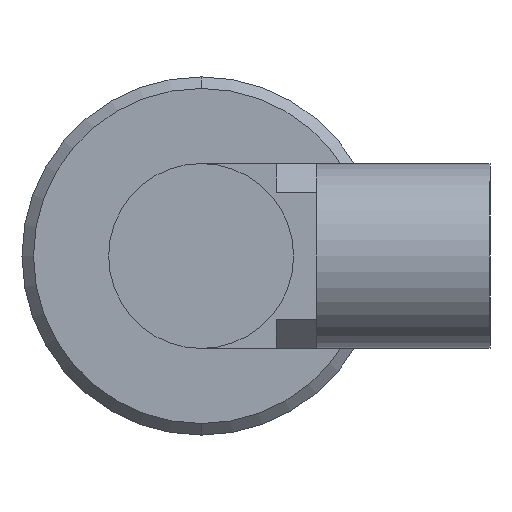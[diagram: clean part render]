
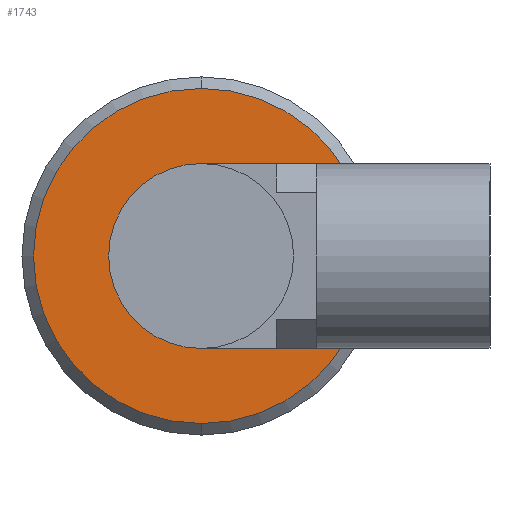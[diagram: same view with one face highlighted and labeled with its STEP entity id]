
A CAD part, left-side view. The second image highlights one B-rep face of the part: STEP entity #1743.
In plain terms, the highlighted planar face has unit normal (-1, 0, 0).
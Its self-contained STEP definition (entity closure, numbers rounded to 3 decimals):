
#11 = CIRCLE ( 'NONE', #883, 8. ) ;
#23 = DIRECTION ( 'NONE',  ( 0., 0., 1. ) ) ;
#124 = CARTESIAN_POINT ( 'NONE',  ( 89., 0., -14.5 ) ) ;
#138 = FACE_BOUND ( 'NONE', #1045, .T. ) ;
#149 = ORIENTED_EDGE ( 'NONE', *, *, #156, .T. ) ;
#156 = EDGE_CURVE ( 'NONE', #1061, #360, #347, .T. ) ;
#164 = ORIENTED_EDGE ( 'NONE', *, *, #496, .F. ) ;
#272 = AXIS2_PLACEMENT_3D ( 'NONE', #472, #1426, #607 ) ;
#281 = DIRECTION ( 'NONE',  ( 1., 0., 0. ) ) ;
#347 = CIRCLE ( 'NONE', #272, 14.5 ) ;
#360 = VERTEX_POINT ( 'NONE', #124 ) ;
#433 = CARTESIAN_POINT ( 'NONE',  ( 89., 0., 0. ) ) ;
#469 = CARTESIAN_POINT ( 'NONE',  ( 89., 0., 14.5 ) ) ;
#471 = DIRECTION ( 'NONE',  ( -1., 0., 0. ) ) ;
#472 = CARTESIAN_POINT ( 'NONE',  ( 89., 0., 0. ) ) ;
#494 = EDGE_CURVE ( 'NONE', #1292, #1184, #11, .T. ) ;
#496 = EDGE_CURVE ( 'NONE', #1184, #1292, #1705, .T. ) ;
#570 = DIRECTION ( 'NONE',  ( 0., 0., 1. ) ) ;
#607 = DIRECTION ( 'NONE',  ( 0., 0., 1. ) ) ;
#623 = CARTESIAN_POINT ( 'NONE',  ( 89., 0., -8. ) ) ;
#706 = EDGE_CURVE ( 'NONE', #360, #1061, #950, .T. ) ;
#813 = FACE_OUTER_BOUND ( 'NONE', #1289, .T. ) ;
#838 = DIRECTION ( 'NONE',  ( -1., 0., 0. ) ) ;
#883 = AXIS2_PLACEMENT_3D ( 'NONE', #433, #1391, #570 ) ;
#929 = AXIS2_PLACEMENT_3D ( 'NONE', #1288, #471, #1425 ) ;
#950 = CIRCLE ( 'NONE', #929, 14.5 ) ;
#969 = AXIS2_PLACEMENT_3D ( 'NONE', #1657, #838, #23 ) ;
#1045 = EDGE_LOOP ( 'NONE', ( #1309, #164 ) ) ;
#1061 = VERTEX_POINT ( 'NONE', #469 ) ;
#1184 = VERTEX_POINT ( 'NONE', #623 ) ;
#1239 = DIRECTION ( 'NONE',  ( 0., 0., -1. ) ) ;
#1272 = ORIENTED_EDGE ( 'NONE', *, *, #706, .T. ) ;
#1288 = CARTESIAN_POINT ( 'NONE',  ( 89., 0., 0. ) ) ;
#1289 = EDGE_LOOP ( 'NONE', ( #1272, #149 ) ) ;
#1292 = VERTEX_POINT ( 'NONE', #1627 ) ;
#1309 = ORIENTED_EDGE ( 'NONE', *, *, #494, .F. ) ;
#1391 = DIRECTION ( 'NONE',  ( -1., 0., 0. ) ) ;
#1425 = DIRECTION ( 'NONE',  ( 0., 0., 1. ) ) ;
#1426 = DIRECTION ( 'NONE',  ( -1., 0., 0. ) ) ;
#1500 = PLANE ( 'NONE',  #1708 ) ;
#1627 = CARTESIAN_POINT ( 'NONE',  ( 89., 0., 8. ) ) ;
#1657 = CARTESIAN_POINT ( 'NONE',  ( 89., 0., 0. ) ) ;
#1705 = CIRCLE ( 'NONE', #969, 8. ) ;
#1708 = AXIS2_PLACEMENT_3D ( 'NONE', #1772, #281, #1239 ) ;
#1743 = ADVANCED_FACE ( 'NONE', ( #138, #813 ), #1500, .F. ) ;
#1772 = CARTESIAN_POINT ( 'NONE',  ( 89., 14.5, 0. ) ) ;
